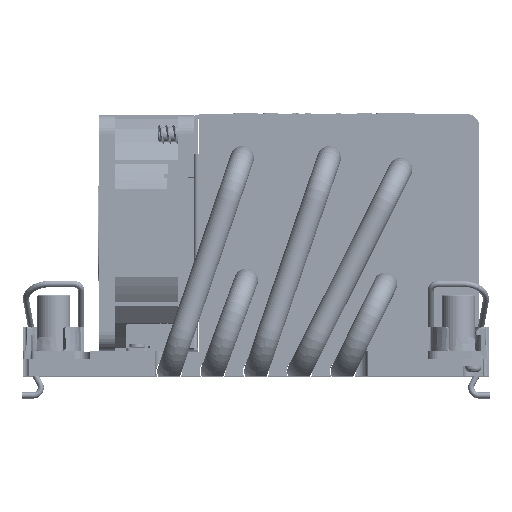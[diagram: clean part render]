
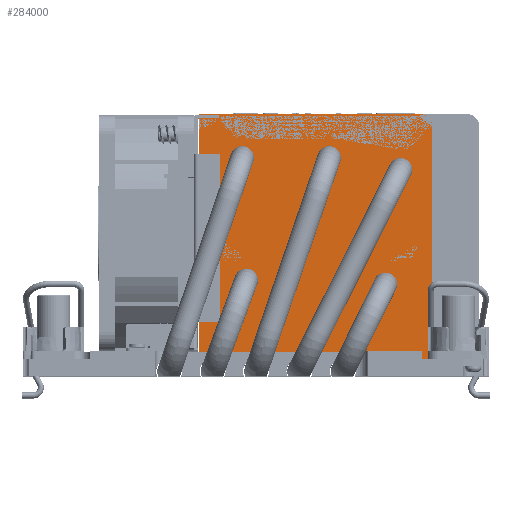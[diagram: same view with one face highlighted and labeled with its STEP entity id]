
A CAD part, top view. The second image highlights one B-rep face of the part: STEP entity #284000.
In plain terms, the highlighted planar face has unit normal (0, 0, 1).
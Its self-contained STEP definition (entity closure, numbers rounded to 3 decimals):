
#283661=DIRECTION('',(-1.,0.,0.));
#283662=VECTOR('',#283661,56.1);
#283663=CARTESIAN_POINT('',(98.35,71.953,-13.85));
#283664=LINE('',#283663,#283662);
#283749=CARTESIAN_POINT('',(98.35,68.953,-13.85));
#283750=DIRECTION('',(0.,0.,-1.));
#283751=DIRECTION('',(0.,1.,0.));
#283752=AXIS2_PLACEMENT_3D('',#283749,#283750,#283751);
#283754=DIRECTION('',(0.,-1.,0.));
#283755=VECTOR('',#283754,58.9);
#283756=CARTESIAN_POINT('',(101.35,68.953,-13.85));
#283757=LINE('',#283756,#283755);
#283758=DIRECTION('',(-1.,0.,0.));
#283759=VECTOR('',#283758,59.1);
#283760=CARTESIAN_POINT('',(101.35,10.053,-13.85));
#283761=LINE('',#283760,#283759);
#283766=DIRECTION('',(0.,-1.,0.));
#283767=VECTOR('',#283766,61.9);
#283768=CARTESIAN_POINT('',(42.25,71.953,-13.85));
#283769=LINE('',#283768,#283767);
#283792=CARTESIAN_POINT('',(98.35,71.953,-13.85));
#283794=VERTEX_POINT('',#283792);
#283796=CARTESIAN_POINT('',(42.25,71.953,-13.85));
#283797=VERTEX_POINT('',#283796);
#283803=CARTESIAN_POINT('',(101.35,68.953,-13.85));
#283805=VERTEX_POINT('',#283803);
#283808=CARTESIAN_POINT('',(101.35,10.053,-13.85));
#283809=VERTEX_POINT('',#283808);
#283820=CARTESIAN_POINT('',(42.25,10.053,-13.85));
#283821=VERTEX_POINT('',#283820);
#283987=CARTESIAN_POINT('',(42.25,10.053,-13.85));
#283988=DIRECTION('',(0.,0.,1.));
#283989=DIRECTION('',(1.,0.,0.));
#283990=AXIS2_PLACEMENT_3D('',#283987,#283988,#283989);
#283991=PLANE('',#283990);
#283992=ORIENTED_EDGE('',*,*,#283884,.T.);
#283993=ORIENTED_EDGE('',*,*,#283902,.T.);
#283994=ORIENTED_EDGE('',*,*,#283973,.T.);
#283996=ORIENTED_EDGE('',*,*,#283995,.F.);
#283997=ORIENTED_EDGE('',*,*,#283862,.F.);
#283998=EDGE_LOOP('',(#283992,#283993,#283994,#283996,#283997));
#283999=FACE_OUTER_BOUND('',#283998,.F.);
#284000=ADVANCED_FACE('',(#283999),#283991,.T.);
#283753=CIRCLE('',#283752,3.);
#283862=EDGE_CURVE('',#283794,#283797,#283664,.T.);
#283884=EDGE_CURVE('',#283794,#283805,#283753,.T.);
#283902=EDGE_CURVE('',#283805,#283809,#283757,.T.);
#283973=EDGE_CURVE('',#283809,#283821,#283761,.T.);
#283995=EDGE_CURVE('',#283797,#283821,#283769,.T.);
